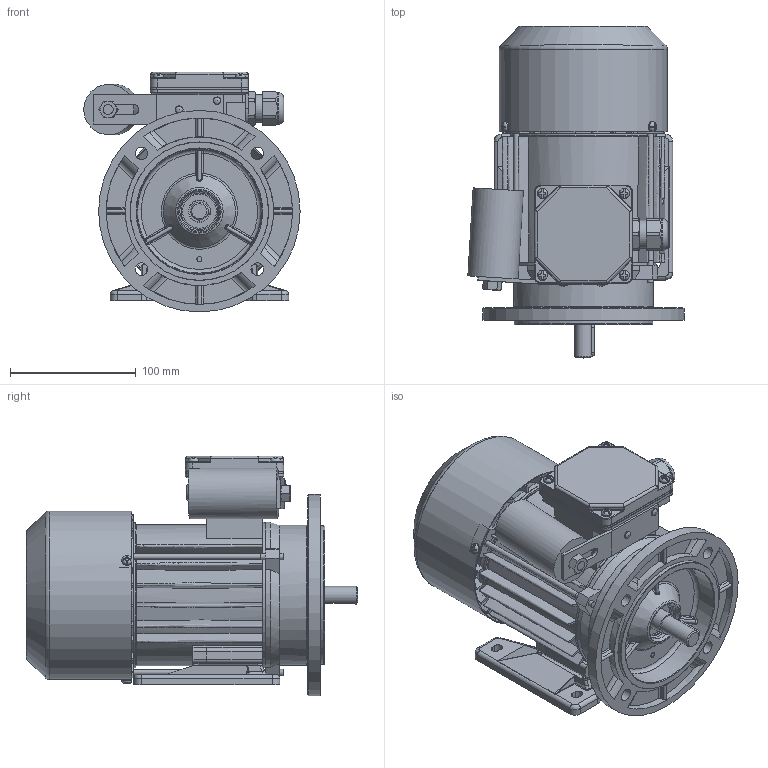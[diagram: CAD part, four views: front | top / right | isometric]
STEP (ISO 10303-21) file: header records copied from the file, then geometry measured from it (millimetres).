
FILE_DESCRIPTION(/* description */ ('Unknown'),/* implementation_level */ '2;1');
FILE_NAME(/* name */ '3SSIEL71-4A',/* time_stamp */ '2024-06-17T12:01:58+02:00',/* author */ ('Unknown'),/* organization */ ('Unknown'),/* preprocessor_version */ 'ST-DEVELOPER v16.7',/* originating_system */ 'Solid Edge',/* authorisation */ 'Unknown');
FILE_SCHEMA (('AUTOMOTIVE_DESIGN {1 0 10303 214 3 1 1}'));
Products named in the file (1): Czêœæ18
Bounding box: 171.73 x 263.49 x 190.5 mm (x, y, z)
Volume: 892528.5 mm3; surface area: 465703.1 mm2
Topology: 2 solids, 2 shells, 2588 faces, 7168 edges, 4581 vertices
Faces by surface type: plane 1108, cylinder 736, bspline 384, torus 177, cone 155, sphere 28
Full cylindrical faces by diameter (mm): 3 x1, 3.7 x4, 3.8 x4, 4 x5, 4.3 x2, 4.5 x2, 4.6 x3, 4.8 x2, 5 x6, 5.5 x3, 5.8 x4, 6 x2, 6.5 x1, 7 x1, 8 x12, 10 x4, 13.999 x1, 15.898 x1, 16.098 x1, 16.498 x1, 16.998 x2, 17.4 x2, 21.998 x2, 22.3 x1, 22.498 x1, 23.098 x1, 23.998 x1, 24.496 x4, 25 x1, 27 x1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
Entity records: 109509 total; most frequent: CARTESIAN_POINT 29682, ORIENTED_EDGE 13558, DIRECTION 11831, EDGE_CURVE 6779, VERTEX_POINT 4442, AXIS2_PLACEMENT_3D 4415, FACE_BOUND 3035, EDGE_LOOP 3031
